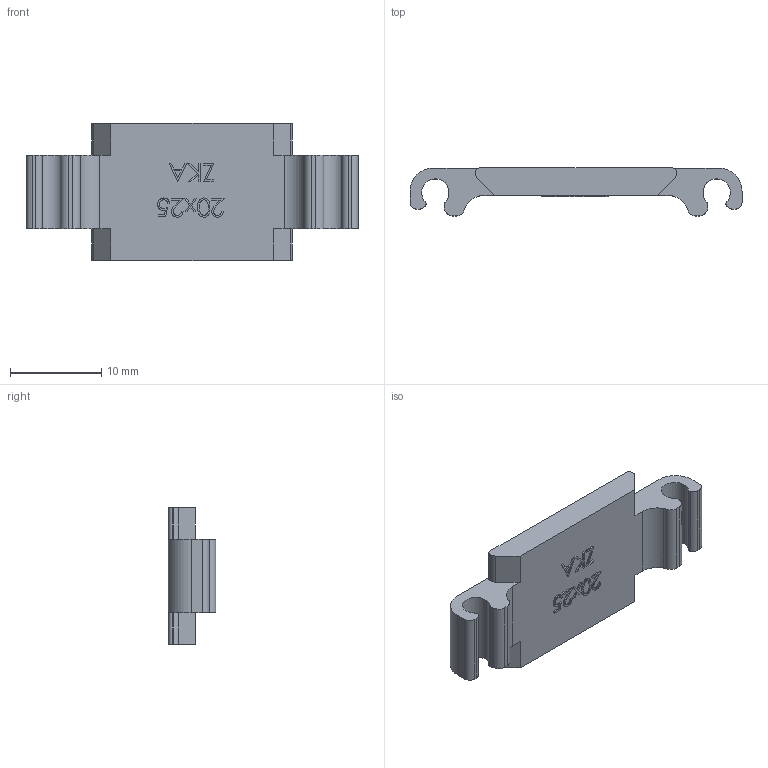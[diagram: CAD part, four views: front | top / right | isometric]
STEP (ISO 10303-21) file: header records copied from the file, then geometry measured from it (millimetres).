
FILE_DESCRIPTION((''),'2; 1');
FILE_NAME('','2026-03-26T10:13:37',(''),(''),'CST STEP Exporter V1.0','Unknown','');
FILE_SCHEMA(('CONFIG_CONTROL_DESIGN'));
Length unit declared in the file: metre
Bounding box: 36.35 x 5.24 x 15 mm (x, y, z)
Surface area: 1318.3 mm2 (no closed solid volume)
Topology: 0 solids, 1 shells, 151 faces, 419 edges, 280 vertices
Faces by surface type: plane 94, extrusion 29, cylinder 28
Entity records: 6826 total; most frequent: CARTESIAN_POINT 1855, ORIENTED_EDGE 838, DIRECTION 676, EDGE_CURVE 419, VECTOR 328, LINE 299, VERTEX_POINT 280, AXIS2_PLACEMENT_3D 174
